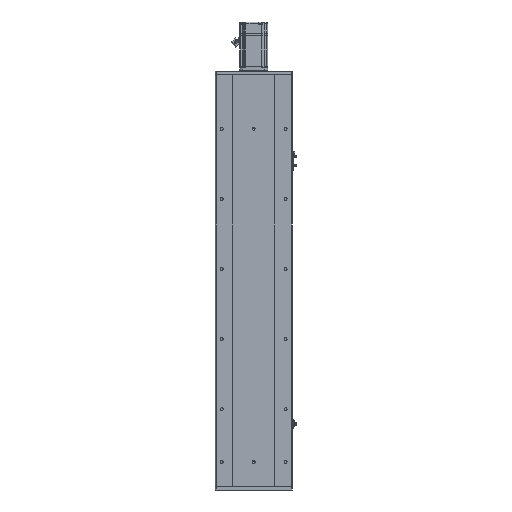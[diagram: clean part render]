
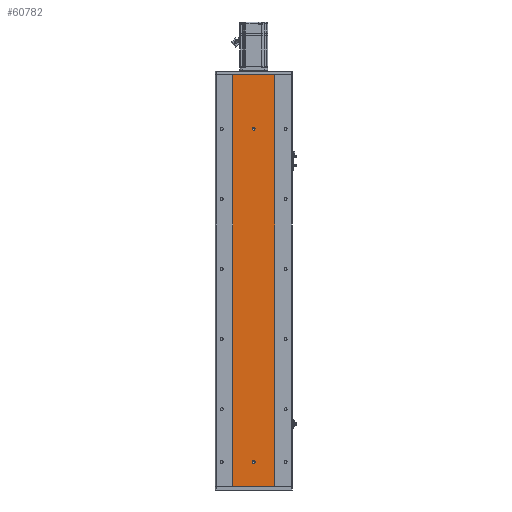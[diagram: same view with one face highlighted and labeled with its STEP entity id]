
A CAD part, front view. The second image highlights one B-rep face of the part: STEP entity #60782.
In plain terms, the highlighted planar face has unit normal (0, -1, 0).
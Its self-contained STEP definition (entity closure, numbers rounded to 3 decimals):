
#449 = CARTESIAN_POINT ( 'NONE',  ( 0., 0., 68.5 ) ) ;
#643 = DIRECTION ( 'NONE',  ( 0., -1., 0. ) ) ;
#1637 = CARTESIAN_POINT ( 'NONE',  ( 0., 0., 1024. ) ) ;
#1764 = ORIENTED_EDGE ( 'NONE', *, *, #12132, .T. ) ;
#1938 = EDGE_LOOP ( 'NONE', ( #19899, #56036, #21921, #11520, #50240 ) ) ;
#2009 = CARTESIAN_POINT ( 'NONE',  ( 60., 0., 1174. ) ) ;
#3474 = VECTOR ( 'NONE', #9635, 1000. ) ;
#3838 = DIRECTION ( 'NONE',  ( 1., 0., 0. ) ) ;
#4044 = LINE ( 'NONE', #15257, #66135 ) ;
#4230 = VERTEX_POINT ( 'NONE', #27294 ) ;
#5601 = CARTESIAN_POINT ( 'NONE',  ( 4., 0., 71.5 ) ) ;
#6403 = CARTESIAN_POINT ( 'NONE',  ( -60., 0., 1174. ) ) ;
#6801 = CARTESIAN_POINT ( 'NONE',  ( -60., 0., 1174. ) ) ;
#8452 = DIRECTION ( 'NONE',  ( 0., -1., 0. ) ) ;
#8832 = VERTEX_POINT ( 'NONE', #56415 ) ;
#9635 = DIRECTION ( 'NONE',  ( 0., 0., -1. ) ) ;
#9688 = VERTEX_POINT ( 'NONE', #56666 ) ;
#9750 = EDGE_CURVE ( 'NONE', #53134, #49681, #38464, .T. ) ;
#10585 = DIRECTION ( 'NONE',  ( 0., 0., 1. ) ) ;
#11326 = DIRECTION ( 'NONE',  ( 0., -1., 0. ) ) ;
#11520 = ORIENTED_EDGE ( 'NONE', *, *, #52262, .F. ) ;
#11743 = LINE ( 'NONE', #6403, #44393 ) ;
#12132 = EDGE_CURVE ( 'NONE', #8832, #52423, #27580, .T. ) ;
#12327 = FACE_BOUND ( 'NONE', #1938, .T. ) ;
#12698 = DIRECTION ( 'NONE',  ( 0., 0., -1. ) ) ;
#13035 = EDGE_CURVE ( 'NONE', #22827, #53134, #45516, .T. ) ;
#13166 = CARTESIAN_POINT ( 'NONE',  ( 0., 0., 1020. ) ) ;
#15103 = CARTESIAN_POINT ( 'NONE',  ( 0., 0., 64.5 ) ) ;
#15257 = CARTESIAN_POINT ( 'NONE',  ( -60., 0., 1174. ) ) ;
#15258 = EDGE_CURVE ( 'NONE', #42122, #9688, #11743, .T. ) ;
#15632 = CARTESIAN_POINT ( 'NONE',  ( 4., 0., 71.5 ) ) ;
#16201 = AXIS2_PLACEMENT_3D ( 'NONE', #61167, #8452, #55481 ) ;
#19255 = AXIS2_PLACEMENT_3D ( 'NONE', #44051, #28720, #65357 ) ;
#19899 = ORIENTED_EDGE ( 'NONE', *, *, #9750, .F. ) ;
#20452 = PLANE ( 'NONE',  #39348 ) ;
#21002 = CIRCLE ( 'NONE', #19255, 4. ) ;
#21818 = ORIENTED_EDGE ( 'NONE', *, *, #56733, .F. ) ;
#21921 = ORIENTED_EDGE ( 'NONE', *, *, #38716, .F. ) ;
#22095 = EDGE_CURVE ( 'NONE', #54740, #29107, #56482, .T. ) ;
#22504 = DIRECTION ( 'NONE',  ( 0., 0., -1. ) ) ;
#22723 = VECTOR ( 'NONE', #3838, 1000. ) ;
#22827 = VERTEX_POINT ( 'NONE', #15632 ) ;
#24512 = CARTESIAN_POINT ( 'NONE',  ( -60., 0., 0. ) ) ;
#24954 = CARTESIAN_POINT ( 'NONE',  ( -60., 0., 1174. ) ) ;
#26017 = VERTEX_POINT ( 'NONE', #15103 ) ;
#27131 = VECTOR ( 'NONE', #10585, 1000. ) ;
#27294 = CARTESIAN_POINT ( 'NONE',  ( 4., 0., 68.5 ) ) ;
#27580 = LINE ( 'NONE', #24512, #22723 ) ;
#28720 = DIRECTION ( 'NONE',  ( 0., -1., 0. ) ) ;
#29107 = VERTEX_POINT ( 'NONE', #1637 ) ;
#29668 = EDGE_CURVE ( 'NONE', #49681, #26017, #55503, .T. ) ;
#30918 = CARTESIAN_POINT ( 'NONE',  ( 0., 0., 1016. ) ) ;
#31914 = DIRECTION ( 'NONE',  ( 1., 0., 0. ) ) ;
#32109 = AXIS2_PLACEMENT_3D ( 'NONE', #13166, #49019, #12698 ) ;
#33881 = EDGE_CURVE ( 'NONE', #42122, #8832, #4044, .T. ) ;
#35491 = LINE ( 'NONE', #2009, #52728 ) ;
#38464 = LINE ( 'NONE', #67457, #3474 ) ;
#38716 = EDGE_CURVE ( 'NONE', #4230, #22827, #46755, .T. ) ;
#39348 = AXIS2_PLACEMENT_3D ( 'NONE', #6801, #58371, #43268 ) ;
#40372 = CIRCLE ( 'NONE', #32109, 4. ) ;
#41335 = CARTESIAN_POINT ( 'NONE',  ( -4., 0., 68.5 ) ) ;
#42084 = DIRECTION ( 'NONE',  ( 0., 0., -1. ) ) ;
#42122 = VERTEX_POINT ( 'NONE', #24954 ) ;
#43268 = DIRECTION ( 'NONE',  ( 0., 0., 1. ) ) ;
#43905 = DIRECTION ( 'NONE',  ( 0., 0., -1. ) ) ;
#44051 = CARTESIAN_POINT ( 'NONE',  ( 0., 0., 68.5 ) ) ;
#44393 = VECTOR ( 'NONE', #31914, 1000. ) ;
#45516 = CIRCLE ( 'NONE', #56256, 4. ) ;
#45601 = ORIENTED_EDGE ( 'NONE', *, *, #22095, .F. ) ;
#45759 = ORIENTED_EDGE ( 'NONE', *, *, #53953, .F. ) ;
#46755 = LINE ( 'NONE', #5601, #27131 ) ;
#47117 = EDGE_LOOP ( 'NONE', ( #1764, #45759, #48614, #59517 ) ) ;
#47602 = DIRECTION ( 'NONE',  ( 0., 0., -1. ) ) ;
#47693 = CARTESIAN_POINT ( 'NONE',  ( -4., 0., 71.5 ) ) ;
#48614 = ORIENTED_EDGE ( 'NONE', *, *, #15258, .F. ) ;
#49019 = DIRECTION ( 'NONE',  ( 0., -1., 0. ) ) ;
#49681 = VERTEX_POINT ( 'NONE', #41335 ) ;
#50240 = ORIENTED_EDGE ( 'NONE', *, *, #29668, .F. ) ;
#52262 = EDGE_CURVE ( 'NONE', #26017, #4230, #21002, .T. ) ;
#52423 = VERTEX_POINT ( 'NONE', #56404 ) ;
#52728 = VECTOR ( 'NONE', #43905, 1000. ) ;
#52770 = EDGE_LOOP ( 'NONE', ( #45601, #21818 ) ) ;
#53134 = VERTEX_POINT ( 'NONE', #47693 ) ;
#53953 = EDGE_CURVE ( 'NONE', #9688, #52423, #35491, .T. ) ;
#54740 = VERTEX_POINT ( 'NONE', #30918 ) ;
#55481 = DIRECTION ( 'NONE',  ( 0., 0., -1. ) ) ;
#55503 = CIRCLE ( 'NONE', #64745, 4. ) ;
#56036 = ORIENTED_EDGE ( 'NONE', *, *, #13035, .F. ) ;
#56256 = AXIS2_PLACEMENT_3D ( 'NONE', #63363, #643, #42084 ) ;
#56404 = CARTESIAN_POINT ( 'NONE',  ( 60., 0., 0. ) ) ;
#56415 = CARTESIAN_POINT ( 'NONE',  ( -60., 0., 0. ) ) ;
#56482 = CIRCLE ( 'NONE', #16201, 4. ) ;
#56666 = CARTESIAN_POINT ( 'NONE',  ( 60., 0., 1174. ) ) ;
#56733 = EDGE_CURVE ( 'NONE', #29107, #54740, #40372, .T. ) ;
#58371 = DIRECTION ( 'NONE',  ( 0., 1., 0. ) ) ;
#59517 = ORIENTED_EDGE ( 'NONE', *, *, #33881, .T. ) ;
#60782 = ADVANCED_FACE ( 'NONE', ( #64630, #12327, #65503 ), #20452, .F. ) ;
#61167 = CARTESIAN_POINT ( 'NONE',  ( 0., 0., 1020. ) ) ;
#63363 = CARTESIAN_POINT ( 'NONE',  ( 0., 0., 71.5 ) ) ;
#64630 = FACE_BOUND ( 'NONE', #52770, .T. ) ;
#64745 = AXIS2_PLACEMENT_3D ( 'NONE', #449, #11326, #47602 ) ;
#65357 = DIRECTION ( 'NONE',  ( 0., 0., -1. ) ) ;
#65503 = FACE_OUTER_BOUND ( 'NONE', #47117, .T. ) ;
#66135 = VECTOR ( 'NONE', #22504, 1000. ) ;
#67457 = CARTESIAN_POINT ( 'NONE',  ( -4., 0., 71.5 ) ) ;
